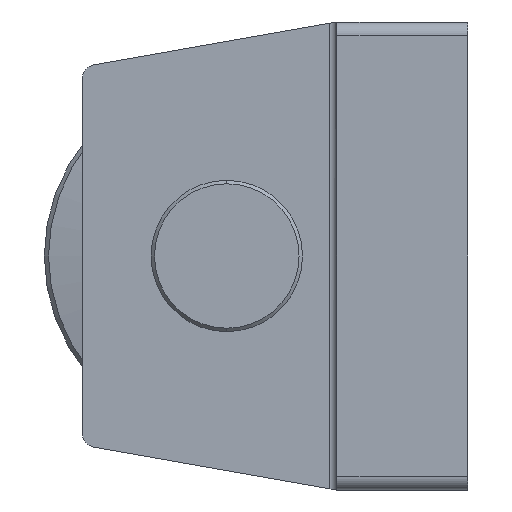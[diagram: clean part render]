
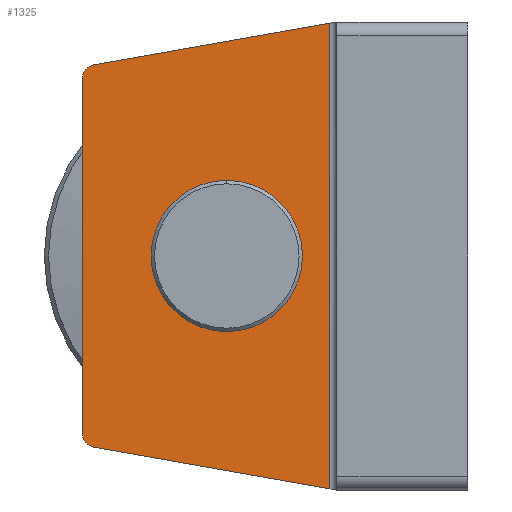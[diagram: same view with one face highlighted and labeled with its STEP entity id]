
A CAD part, left-side view. The second image highlights one B-rep face of the part: STEP entity #1325.
In plain terms, the highlighted planar face has unit normal (-1, 0, 0).
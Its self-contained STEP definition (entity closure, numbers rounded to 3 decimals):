
#25 = AXIS2_PLACEMENT_3D ( 'NONE', #1550, #127, #466 ) ;
#60 = VERTEX_POINT ( 'NONE', #2417 ) ;
#97 = CARTESIAN_POINT ( 'NONE',  ( -19., 35., -11. ) ) ;
#99 = ORIENTED_EDGE ( 'NONE', *, *, #716, .T. ) ;
#102 = PLANE ( 'NONE',  #2230 ) ;
#127 = DIRECTION ( 'NONE',  ( -1., 0., 0. ) ) ;
#144 = CARTESIAN_POINT ( 'NONE',  ( -19., 19.97, 33.829 ) ) ;
#294 = VERTEX_POINT ( 'NONE', #780 ) ;
#311 = DIRECTION ( 'NONE',  ( 0., 1., 0. ) ) ;
#322 = DIRECTION ( 'NONE',  ( 0., 0., -1. ) ) ;
#328 = AXIS2_PLACEMENT_3D ( 'NONE', #1468, #457, #311 ) ;
#329 = CARTESIAN_POINT ( 'NONE',  ( -19., 20., 34. ) ) ;
#442 = AXIS2_PLACEMENT_3D ( 'NONE', #2353, #726, #728 ) ;
#445 = EDGE_CURVE ( 'NONE', #60, #1245, #2308, .T. ) ;
#456 = DIRECTION ( 'NONE',  ( 0., 0., -1. ) ) ;
#457 = DIRECTION ( 'NONE',  ( 1., 0., 0. ) ) ;
#464 = AXIS2_PLACEMENT_3D ( 'NONE', #1109, #2460, #1071 ) ;
#466 = DIRECTION ( 'NONE',  ( 0., 1., 0. ) ) ;
#502 = LINE ( 'NONE', #586, #1137 ) ;
#511 = ORIENTED_EDGE ( 'NONE', *, *, #1285, .F. ) ;
#527 = FACE_OUTER_BOUND ( 'NONE', #1133, .T. ) ;
#554 = VERTEX_POINT ( 'NONE', #854 ) ;
#586 = CARTESIAN_POINT ( 'NONE',  ( -19., 56., 34. ) ) ;
#654 = DIRECTION ( 'NONE',  ( 1., 0., 0. ) ) ;
#716 = EDGE_CURVE ( 'NONE', #1245, #60, #2071, .T. ) ;
#726 = DIRECTION ( 'NONE',  ( 1., 0., 0. ) ) ;
#727 = VERTEX_POINT ( 'NONE', #1607 ) ;
#728 = DIRECTION ( 'NONE',  ( 0., 1., 0. ) ) ;
#735 = VERTEX_POINT ( 'NONE', #961 ) ;
#780 = CARTESIAN_POINT ( 'NONE',  ( -19., 54.347, -27.767 ) ) ;
#854 = CARTESIAN_POINT ( 'NONE',  ( -19., 20., -33.824 ) ) ;
#934 = CARTESIAN_POINT ( 'NONE',  ( -19., 20., 33.824 ) ) ;
#961 = CARTESIAN_POINT ( 'NONE',  ( -19., 56., 25.798 ) ) ;
#1051 = CARTESIAN_POINT ( 'NONE',  ( -19., 20., 34. ) ) ;
#1071 = DIRECTION ( 'NONE',  ( 0., 1., 0. ) ) ;
#1109 = CARTESIAN_POINT ( 'NONE',  ( -19., 54., -25.798 ) ) ;
#1133 = EDGE_LOOP ( 'NONE', ( #1275, #1601, #2450, #2309, #1851, #511 ) ) ;
#1137 = VECTOR ( 'NONE', #456, 1000. ) ;
#1210 = LINE ( 'NONE', #144, #1883 ) ;
#1245 = VERTEX_POINT ( 'NONE', #97 ) ;
#1275 = ORIENTED_EDGE ( 'NONE', *, *, #1373, .T. ) ;
#1285 = EDGE_CURVE ( 'NONE', #2167, #554, #1758, .T. ) ;
#1325 = ADVANCED_FACE ( 'NONE', ( #2240, #527 ), #102, .F. ) ;
#1373 = EDGE_CURVE ( 'NONE', #2167, #727, #1210, .T. ) ;
#1402 = VECTOR ( 'NONE', #1805, 1000. ) ;
#1468 = CARTESIAN_POINT ( 'NONE',  ( -19., 35., 0. ) ) ;
#1542 = CIRCLE ( 'NONE', #464, 2. ) ;
#1550 = CARTESIAN_POINT ( 'NONE',  ( -19., 54., 25.798 ) ) ;
#1563 = DIRECTION ( 'NONE',  ( 0., 0.985, -0.174 ) ) ;
#1601 = ORIENTED_EDGE ( 'NONE', *, *, #1864, .T. ) ;
#1607 = CARTESIAN_POINT ( 'NONE',  ( -19., 54.347, 27.767 ) ) ;
#1634 = CARTESIAN_POINT ( 'NONE',  ( -19., 56., -25.798 ) ) ;
#1756 = ORIENTED_EDGE ( 'NONE', *, *, #445, .T. ) ;
#1758 = LINE ( 'NONE', #1051, #2391 ) ;
#1762 = EDGE_CURVE ( 'NONE', #294, #554, #2202, .T. ) ;
#1783 = CIRCLE ( 'NONE', #25, 2. ) ;
#1805 = DIRECTION ( 'NONE',  ( 0., -0.985, -0.174 ) ) ;
#1851 = ORIENTED_EDGE ( 'NONE', *, *, #1762, .T. ) ;
#1864 = EDGE_CURVE ( 'NONE', #727, #735, #1783, .T. ) ;
#1883 = VECTOR ( 'NONE', #1563, 1000. ) ;
#2007 = CARTESIAN_POINT ( 'NONE',  ( -19., 31.599, -31.779 ) ) ;
#2071 = CIRCLE ( 'NONE', #442, 11. ) ;
#2157 = EDGE_LOOP ( 'NONE', ( #1756, #99 ) ) ;
#2167 = VERTEX_POINT ( 'NONE', #934 ) ;
#2186 = EDGE_CURVE ( 'NONE', #2229, #294, #1542, .T. ) ;
#2201 = DIRECTION ( 'NONE',  ( 0., 1., 0. ) ) ;
#2202 = LINE ( 'NONE', #2007, #1402 ) ;
#2229 = VERTEX_POINT ( 'NONE', #1634 ) ;
#2230 = AXIS2_PLACEMENT_3D ( 'NONE', #329, #654, #2201 ) ;
#2240 = FACE_BOUND ( 'NONE', #2157, .T. ) ;
#2308 = CIRCLE ( 'NONE', #328, 11. ) ;
#2309 = ORIENTED_EDGE ( 'NONE', *, *, #2186, .T. ) ;
#2328 = EDGE_CURVE ( 'NONE', #735, #2229, #502, .T. ) ;
#2353 = CARTESIAN_POINT ( 'NONE',  ( -19., 35., 0. ) ) ;
#2391 = VECTOR ( 'NONE', #322, 1000. ) ;
#2417 = CARTESIAN_POINT ( 'NONE',  ( -19., 35., 11. ) ) ;
#2450 = ORIENTED_EDGE ( 'NONE', *, *, #2328, .T. ) ;
#2460 = DIRECTION ( 'NONE',  ( -1., 0., 0. ) ) ;
